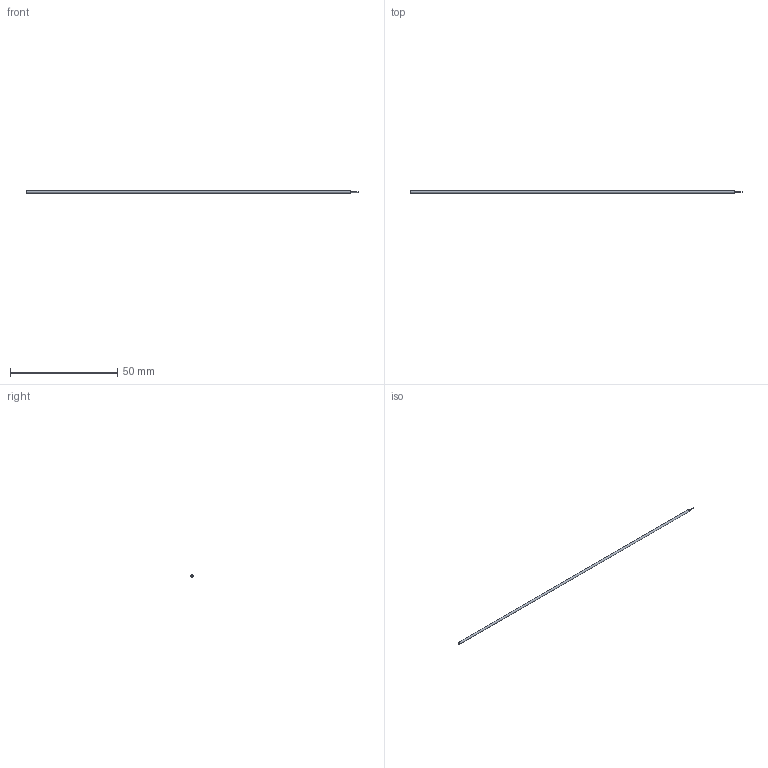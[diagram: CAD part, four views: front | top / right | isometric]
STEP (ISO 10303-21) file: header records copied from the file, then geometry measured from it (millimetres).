
FILE_DESCRIPTION(/* description */ ('STEP AP242 Edition 2','CAx-IF Rec.Pracs.---Representation and Presentation of Product Manufacturing Information (PMI)---4.0---2014-10-13','CAx-IF Rec.Pracs.---3D Tessellated Geometry---0.4---2014-09-14','2;1','CAx-IF Rec.Pracs.---User Defined Attributes---1.5---2016-08-15'),/* implementation_level */ '2;1');
FILE_NAME(/* name */ 'Part Studio 1 - Surface 38',/* time_stamp */ '2026-11-25T23:28:52Z',/* author */ (''),/* organization */ (''),/* preprocessor_version */ 'ST-DEVELOPER v20',/* originating_system */ 'ONSHAPE BY PTC INC, 1.224',/* authorisation */ ' ');
FILE_SCHEMA (('AP242_MANAGED_MODEL_BASED_3D_ENGINEERING_MIM_LF { 1 0 10303 442 3 1 4 }'));
Length unit declared in the file: metre
Products named in the file (1): NONE
Bounding box: 155.02 x 1.02 x 1.02 mm (x, y, z)
Surface area: 488.9 mm2 (no closed solid volume)
Topology: 0 solids, 1 shells, 3 faces, 6 edges, 4 vertices
Faces by surface type: cylinder 2, plane 1
Full cylindrical faces by diameter (mm): 0.406 x1, 1.016 x1
Entity records: 89 total; most frequent: DIRECTION 16, CARTESIAN_POINT 12, AXIS2_PLACEMENT_3D 8, ORIENTED_EDGE 6, EDGE_LOOP 6, FACE_BOUND 6, EDGE_CURVE 4, VERTEX_POINT 4
